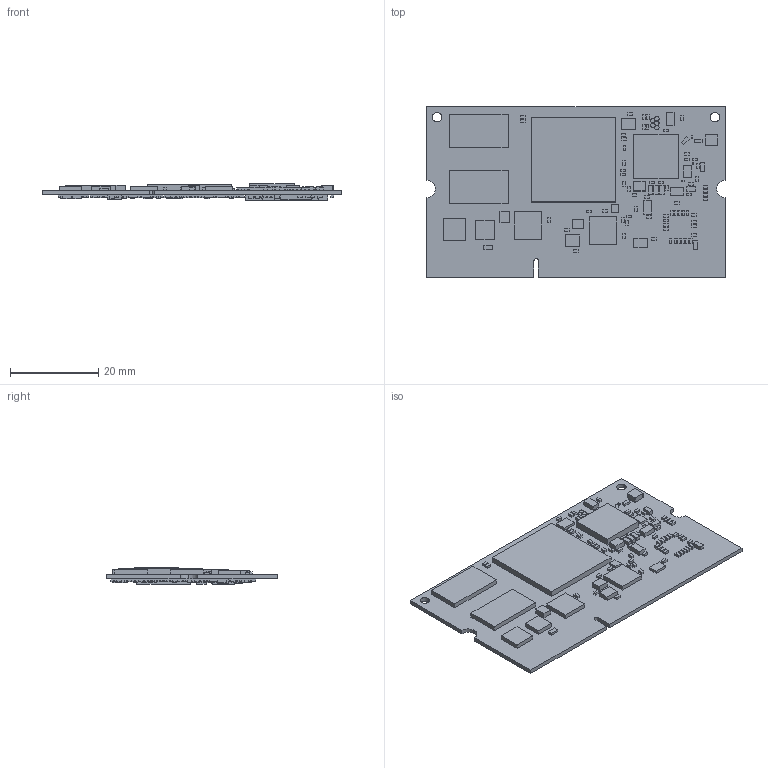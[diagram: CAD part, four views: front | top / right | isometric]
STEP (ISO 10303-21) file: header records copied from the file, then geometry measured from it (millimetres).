
FILE_DESCRIPTION (( 'STEP AP203' ), '1' );
FILE_NAME ('VAR-SOM-MX7-5G_V2_0_VPC0282-6U-F_final.STEP', '2021-01-06T17:13:42', ( '' ), ( '' ), 'SwSTEP 2.0', 'SolidWorks 2020', '' );
FILE_SCHEMA (( 'CONFIG_CONTROL_DESIGN' ));
Length unit declared in the file: millimetre
Products named in the file (1): VAR-SOM-MX7-5G_V2_0_VPC0282-6U-F_final
Bounding box: 67.6 x 38.6 x 3.82 mm (x, y, z)
Volume: 4147.6 mm3; surface area: 9927.5 mm2
Topology: 345 solids, 345 shells, 2075 faces, 4155 edges, 2770 vertices
Faces by surface type: plane 2047, cylinder 28
Entity records: 52062 total; most frequent: CARTESIAN_POINT 9001, DIRECTION 8363, ORIENTED_EDGE 8310, EDGE_CURVE 4155, LINE 4099, VECTOR 4099, VERTEX_POINT 2770, AXIS2_PLACEMENT_3D 2132
